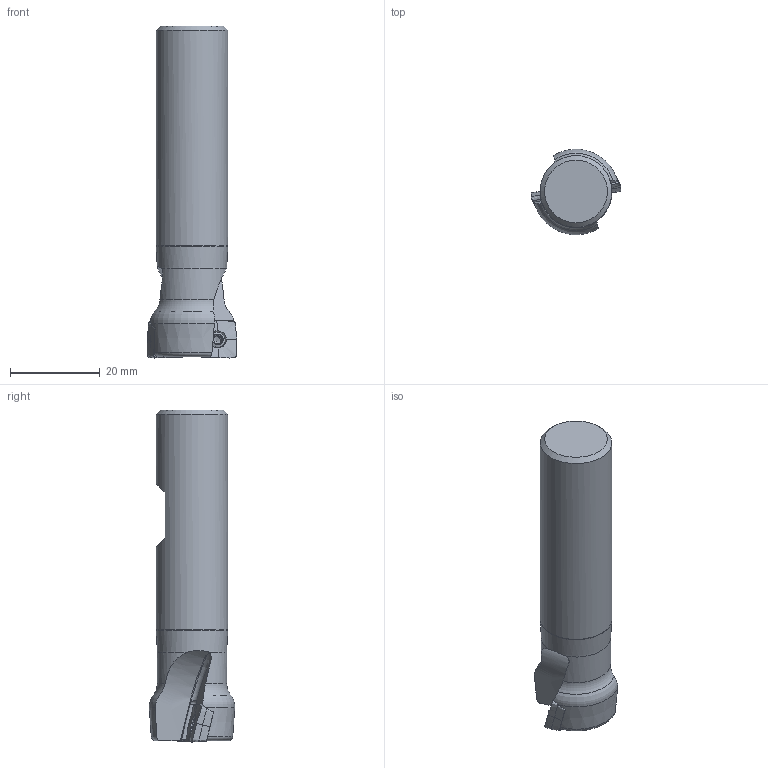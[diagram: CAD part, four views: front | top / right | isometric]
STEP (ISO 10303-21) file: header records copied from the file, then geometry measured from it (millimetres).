
FILE_DESCRIPTION(/* description */ (''),/* implementation_level */ '2;1');
FILE_NAME(/* name */ 'toolassembly_1.stp',/* time_stamp */ '2019-03-21T13:50:59+01:00',/* author */ (''),/* organization */ ('SMS'),/* preprocessor_version */ 'ST-DEVELOPER v15',/* originating_system */ 'SIEMENS PLM Software NX 8.5',/* authorisation */ '');
FILE_SCHEMA (('AUTOMOTIVE_DESIGN { 1 0 10303 214 3 1 1 1 }'));
Length unit declared in the file: millimetre
Products named in the file (4): CUT_20190321135004; NOCUT_20190321134957; ASSEMBLY_CONSTRUCTION; TOOLASSEMBLY_1
Assembly tree (4 placements, depth 2):
  TOOLASSEMBLY_1
    ASSEMBLY_CONSTRUCTION
    NOCUT_20190321134957
    CUT_20190321135004  x2
Bounding box: 19.99 x 19.05 x 74.01 mm (x, y, z)
Volume: 13783.4 mm3; surface area: 4831.3 mm2
Topology: 3 solids, 3 shells, 174 faces, 487 edges, 326 vertices
Faces by surface type: plane 67, bspline 28, extrusion 24, cone 22, torus 15, cylinder 13, sphere 4, revolution 1
Full cylindrical faces by diameter (mm): 2.5 x2, 2.8 x2, 3.45 x2, 15.995 x1
Entity records: 15403 total; most frequent: CARTESIAN_POINT 11716, ORIENTED_EDGE 764, DIRECTION 657, EDGE_CURVE 382, AXIS2_PLACEMENT_3D 271, VERTEX_POINT 258, EDGE_LOOP 178, B_SPLINE_CURVE_WITH_KNOTS 170
